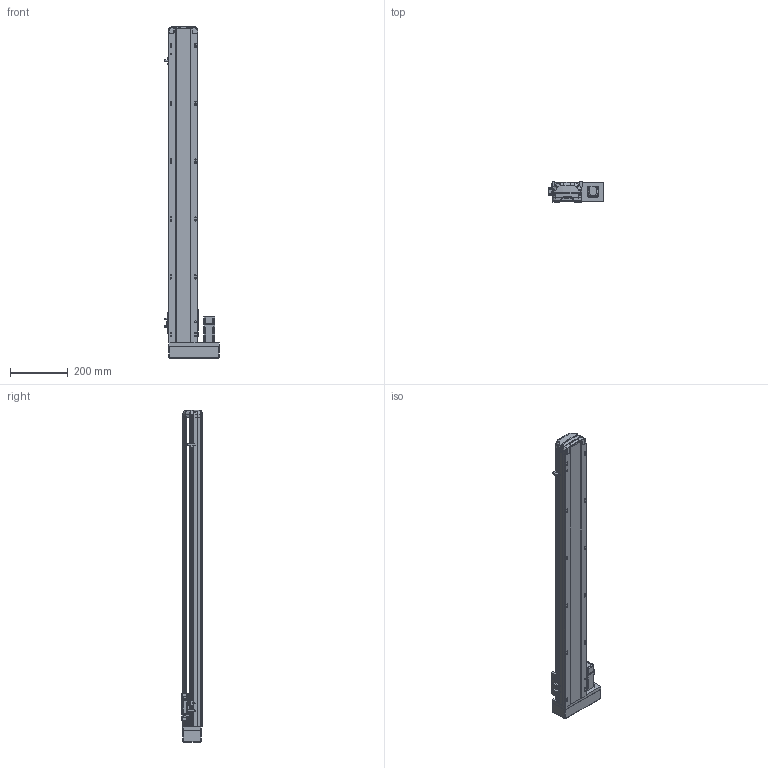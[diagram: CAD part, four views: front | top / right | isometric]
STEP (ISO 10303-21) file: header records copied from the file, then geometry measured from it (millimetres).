
FILE_DESCRIPTION (( 'STEP AP214' ), '1' );
FILE_NAME ('RTH10-XX-900-R-M10-C4.STEP', '2025-10-25T05:56:53', ( 'Microsoft' ), ( 'Microsoft' ), 'SwSTEP 2.0', 'SolidWorks 2018', '' );
FILE_SCHEMA (( 'AUTOMOTIVE_DESIGN' ));
Length unit declared in the file: millimetre
Products named in the file (10): N_RTH13-L-012覜茼え俋离^RTH10-XX-100-R-M10-C4; N_OMRON EE-SX672 传感器^RTH10-XX-100-R-M10-C4; N_RTH12-L-008萇儂啣^RTH10-XX-100-R-M10-C4; N_RTH12-GY-004-賑釱^RTH10-XX-100-R-M10-C4; N_RTH12-M-011P-臏倰第菁釱^RTH10-XX-100-R-M10-C4; N_RTH12-L-018-裔赽^RTH10-XX-100-R-M10-C4; N_RTH12-GY-001P^RTH10-XX-100-R-M10-C4; N_RTH12-M-007P-奻裔^RTH10-XX-100-R-M10-C4; N_P10^RTH10-XX-100-R-M10-C4; RTH10-XX-900-R-M10-C4
Assembly tree (11 placements, depth 2):
  RTH10-XX-900-R-M10-C4
    N_RTH12-M-011P-臏倰第菁釱^RTH10-XX-100-R-M10-C4
    N_RTH13-L-012覜茼え俋离^RTH10-XX-100-R-M10-C4
    N_OMRON EE-SX672 传感器^RTH10-XX-100-R-M10-C4  x3
    N_P10^RTH10-XX-100-R-M10-C4
    N_RTH12-M-007P-奻裔^RTH10-XX-100-R-M10-C4
    N_RTH12-L-008萇儂啣^RTH10-XX-100-R-M10-C4
    N_RTH12-L-018-裔赽^RTH10-XX-100-R-M10-C4
    N_RTH12-GY-004-賑釱^RTH10-XX-100-R-M10-C4
    N_RTH12-GY-001P^RTH10-XX-100-R-M10-C4
Bounding box: 190 x 70 x 1147.31 mm (x, y, z)
Volume: 4847955.6 mm3; surface area: 737812.1 mm2
Topology: 10 solids, 12 shells, 1940 faces, 5422 edges, 3557 vertices
Faces by surface type: plane 951, cylinder 482, bspline 472, cone 29, sphere 4, torus 2
Entity records: 58570 total; most frequent: CARTESIAN_POINT 23309, ORIENTED_EDGE 7916, DIRECTION 6084, EDGE_CURVE 3964, VERTEX_POINT 2601, VECTOR 2068, LINE 2068, AXIS2_PLACEMENT_3D 2008
